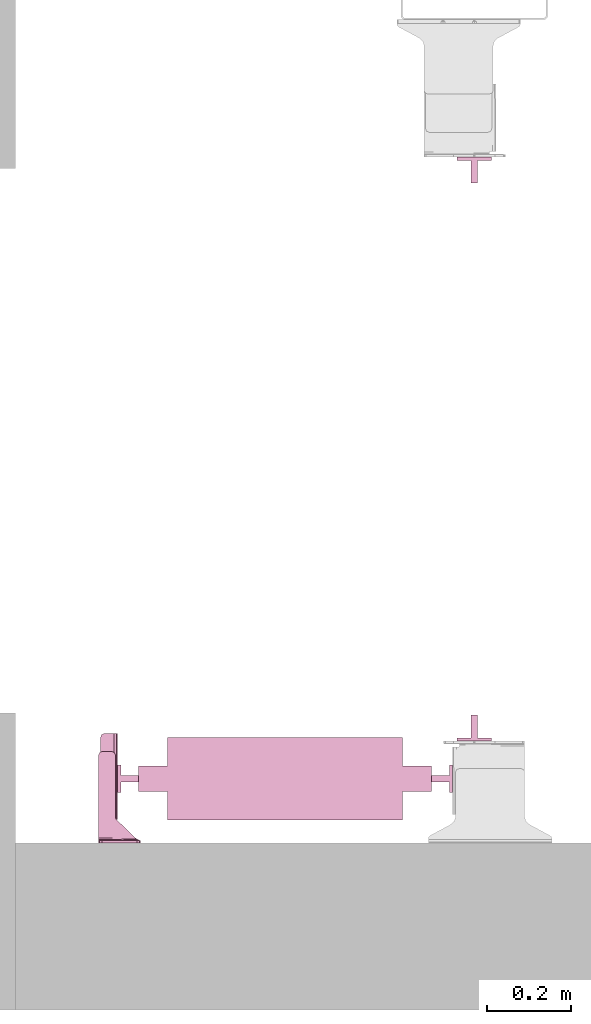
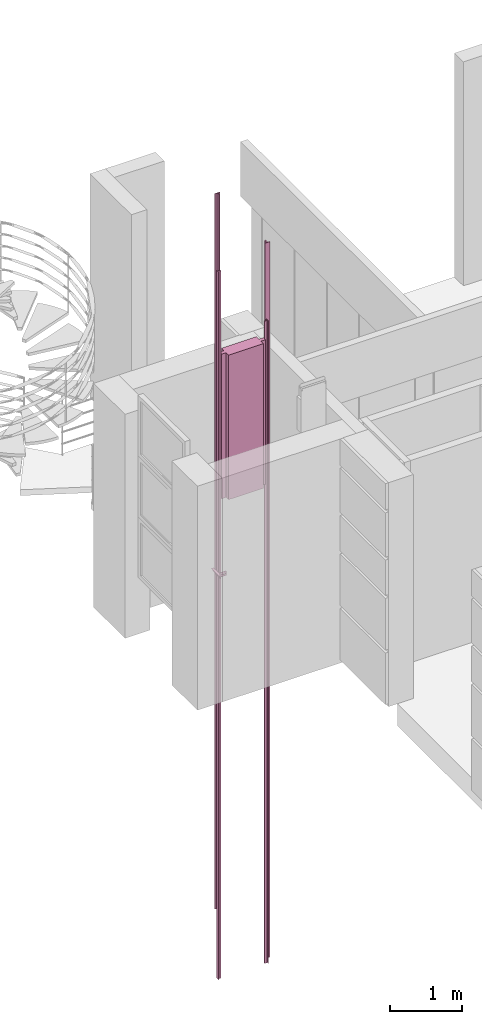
# One storey, part 10 of 14: 6 transport elements.
"""IFC2X3 building model written with IfcOpenShell, lengths in millimetres."""

import ifcopenshell
import ifcopenshell.guid

model = None  # the IFC model being written
_history = None  # IfcOwnerHistory: only IFC2X3 demands one
_inside = {}  # id of a spatial element -> (the spatial element, [elements in it])
_under = {}  # id of a project, library or spatial element -> (it, [spatial elements below it])
_declared = {}  # id of a project -> (the project, [libraries it declares])
_typed = {}  # id of a type object -> (the type object, [elements of that type])
_made_of = {}  # id of a material, layer set ... -> (it, [elements and type objects made of it])


def new_model(schema):
    """Start an empty IFC model of exactly this schema.

    Asked for "IFC4X3", IfcOpenShell would pick the latest addendum, in which some entities
    have other attributes; the version numbers below select the first issue.
    IFC2X3 requires an IfcOwnerHistory on every rooted entity: one is made here for all.
    """
    global model, _history
    if schema == "IFC4X3":
        model = ifcopenshell.file(schema_version=(4, 3, 0, 0))
    else:
        model = ifcopenshell.file(schema=schema)
    _inside.clear()
    _under.clear()
    _declared.clear()
    _typed.clear()
    _made_of.clear()
    _history = None
    if model.schema == "IFC2X3":
        org = make("IfcOrganization", Name="unknown")
        user = make(
            "IfcPersonAndOrganization",
            ThePerson=make("IfcPerson", FamilyName="unknown"),
            TheOrganization=org,
        )
        app = make(
            "IfcApplication",
            ApplicationDeveloper=org,
            Version="unknown",
            ApplicationFullName="unknown",
            ApplicationIdentifier="unknown",
        )
        _history = make(
            "IfcOwnerHistory",
            OwningUser=user,
            OwningApplication=app,
            ChangeAction="ADDED",
            CreationDate=0,
        )
    return model


def make(cls, **values):
    """One entity of the class cls with the attributes given. An attribute that is None is left unset."""
    return model.create_entity(
        cls, **{name: value for name, value in values.items() if value is not None}
    )


def entity(cls, *values):
    """Any entity or typed value of the class cls, its attributes in the order of the schema. None: left unset."""
    e = model.create_entity(cls)
    for i, value in enumerate(values):
        if value is not None:
            e[i] = value
    return e


def rooted(cls, **values):
    """An entity with a GlobalId (a new one), such as an element, a storey or a relation."""
    return make(cls, GlobalId=ifcopenshell.guid.new(), OwnerHistory=_history, **values)


def si_unit(unit_type, name, prefix=None):
    """IfcSIUnit, for example si_unit("LENGTHUNIT", "METRE", prefix="MILLI")."""
    return make("IfcSIUnit", UnitType=unit_type, Prefix=prefix, Name=name)


def converted_unit(unit_type, name, factor, base, dimensions=None, offset=None):
    """IfcConversionBasedUnit, such as the inch: factor (a typed value) times the base unit."""
    return make(
        "IfcConversionBasedUnit"
        if offset is None
        else "IfcConversionBasedUnitWithOffset",
        ConversionOffset=offset,
        Dimensions=None
        if dimensions is None
        else entity("IfcDimensionalExponents", *dimensions),
        UnitType=unit_type,
        Name=name,
        ConversionFactor=make(
            "IfcMeasureWithUnit", ValueComponent=factor, UnitComponent=base
        ),
    )


def derived_unit(unit_type, elements):
    """IfcDerivedUnit: a product of units, each with its exponent."""
    return make(
        "IfcDerivedUnit",
        Elements=[
            make("IfcDerivedUnitElement", Unit=unit, Exponent=power)
            for unit, power in elements
        ],
        UnitType=unit_type,
    )


def assignment(units):
    """IfcUnitAssignment: the units of a project."""
    return None if units is None else make("IfcUnitAssignment", Units=units)


def point(xyz):
    """IfcCartesianPoint."""
    return None if xyz is None else make("IfcCartesianPoint", Coordinates=xyz)


def direction(xyz):
    """IfcDirection."""
    return None if xyz is None else make("IfcDirection", DirectionRatios=xyz)


def frame(location, z_axis=None, x_axis=None):
    """IfcAxis2Placement3D, a coordinate frame: its origin and axes. An axis left out is left unset."""
    return make(
        "IfcAxis2Placement3D",
        Location=point(location),
        Axis=direction(z_axis),
        RefDirection=direction(x_axis),
    )


def origin():
    """The frame at (0, 0, 0) with its axes left unset."""
    return frame((0.0, 0.0, 0.0))


def place(relative_to, where):
    """IfcLocalPlacement: puts the frame where relative to a parent placement (None: the world)."""
    return make(
        "IfcLocalPlacement", PlacementRelTo=relative_to, RelativePlacement=where
    )


def context(
    kind, dimensions, precision=None, world=None, true_north=None, identifier=None
):
    """IfcGeometricRepresentationContext, for example the 3D "Model" context."""
    return make(
        "IfcGeometricRepresentationContext",
        ContextIdentifier=identifier,
        ContextType=kind,
        CoordinateSpaceDimension=dimensions,
        Precision=precision,
        WorldCoordinateSystem=world,
        TrueNorth=true_north,
    )


def subcontext(parent, identifier, kind, view, scale=None):
    """IfcGeometricRepresentationSubContext, for example "Body" below "Model"."""
    return make(
        "IfcGeometricRepresentationSubContext",
        ContextIdentifier=identifier,
        ContextType=kind,
        ParentContext=parent,
        TargetScale=scale,
        TargetView=view,
    )


def project(units=None, contexts=None):
    """IfcProject with its units and contexts."""
    return rooted(
        "IfcProject",
        Name="project",
        RepresentationContexts=contexts,
        UnitsInContext=assignment(units),
    )


def spatial(cls, under=None, at=None, **own):
    """A site, building, storey or space (cls), placed at a placement, below another one or the project."""
    s = rooted(cls, ObjectPlacement=at, **own)
    if under is not None:
        _under.setdefault(under.id(), (under, []))[1].append(s)
    return s


def polyline(points):
    """IfcPolyline through the points."""
    return make("IfcPolyline", Points=[point(p) for p in points])


def outline(outer, holes=None, kind="AREA"):
    """IfcArbitraryClosedProfileDef: a profile drawn as a closed curve; with holes, ...WithVoids."""
    if holes is None:
        return make("IfcArbitraryClosedProfileDef", ProfileType=kind, OuterCurve=outer)
    return make(
        "IfcArbitraryProfileDefWithVoids",
        ProfileType=kind,
        OuterCurve=outer,
        InnerCurves=holes,
    )


def extrude(swept, where, along, depth):
    """IfcExtrudedAreaSolid: the profile swept, set in the frame where, extruded along a direction by depth."""
    return make(
        "IfcExtrudedAreaSolid",
        SweptArea=swept,
        Position=where,
        ExtrudedDirection=direction(along),
        Depth=depth,
    )


def faces_of(points, faces, orient=None, outer=None):
    """IfcFace entities. A face is a list of loops; a loop is a list of indices into points, from 0.

    orient and outer hold one flag for each loop. By default every Orientation is true, the
    first loop of a face is its IfcFaceOuterBound and the others are IfcFaceBound.
    """
    made = []
    for i, loops in enumerate(faces):
        bounds = []
        for j, loop in enumerate(loops):
            is_outer = j == 0 if outer is None else outer[i][j]
            bounds.append(
                make(
                    "IfcFaceOuterBound" if is_outer else "IfcFaceBound",
                    Bound=make("IfcPolyLoop", Polygon=[points[k] for k in loop]),
                    Orientation=True if orient is None else orient[i][j],
                )
            )
        made.append(make("IfcFace", Bounds=bounds))
    return made


def faceted_brep(points, faces, orient=None, outer=None, voids=None):
    """IfcFacetedBrep: a solid bounded by flat faces; with voids (closed shells), ...WithVoids."""
    shared = [point(p) for p in points]
    hull = make("IfcClosedShell", CfsFaces=faces_of(shared, faces, orient, outer))
    if voids is None:
        return make("IfcFacetedBrep", Outer=hull)
    return make(
        "IfcFacetedBrepWithVoids",
        Outer=hull,
        Voids=[
            make(cls, CfsFaces=faces_of(shared, fs, o, b)) for cls, fs, o, b in voids
        ],
    )


def shape(context_of_items, identifier, shape_type, items):
    """IfcShapeRepresentation: the items that make up one representation, for example the "Body"."""
    return make(
        "IfcShapeRepresentation",
        ContextOfItems=context_of_items,
        RepresentationIdentifier=identifier,
        RepresentationType=shape_type,
        Items=items,
    )


def source(mapping_origin, context_of_items, identifier, shape_type, items):
    """IfcRepresentationMap: a shape defined once, which mapped items show again and again."""
    return make(
        "IfcRepresentationMap",
        MappingOrigin=mapping_origin,
        MappedRepresentation=shape(context_of_items, identifier, shape_type, items),
    )


def transform(
    local_origin,
    x_axis=None,
    y_axis=None,
    z_axis=None,
    scale=None,
    scale2=None,
    scale3=None,
    uniform=True,
):
    """IfcCartesianTransformationOperator3D, or its non-uniform kind. x_axis, y_axis, z_axis: its Axis1, 2, 3."""
    if uniform:
        return make(
            "IfcCartesianTransformationOperator3D",
            Axis1=direction(x_axis),
            Axis2=direction(y_axis),
            LocalOrigin=point(local_origin),
            Scale=scale,
            Axis3=direction(z_axis),
        )
    return make(
        "IfcCartesianTransformationOperator3DnonUniform",
        Axis1=direction(x_axis),
        Axis2=direction(y_axis),
        LocalOrigin=point(local_origin),
        Scale=scale,
        Axis3=direction(z_axis),
        Scale2=scale2,
        Scale3=scale3,
    )


def mapped(mapping_source, mapping_target):
    """IfcMappedItem: shows the shape of a source again, moved by a transform."""
    return make(
        "IfcMappedItem", MappingSource=mapping_source, MappingTarget=mapping_target
    )


def made_of(thing, what):
    """Note that an element or type object is made of a material, layer set ...; save() writes the relation."""
    if what is not None:
        _made_of.setdefault(what.id(), (what, []))[1].append(thing)
    return thing


def type_object(cls, material=None, **own):
    """A type object (cls), such as IfcWallType, which elements share."""
    return made_of(rooted(cls, **own), material)


def type_shapes(of_type, sources):
    """Give a type object the sources (RepresentationMaps) that its elements show as mapped items."""
    of_type.RepresentationMaps = sources


def element(
    cls,
    number,
    at=None,
    inside=None,
    cuts=None,
    type_object=None,
    material=None,
    context=None,
    identifier="Body",
    shape_type=None,
    held_by="IfcProductDefinitionShape",
    body=None,
    shapes=None,
    **own,
):
    """One element of the class cls, such as IfcWall. Its Tag is "e" and its number.

    at: its placement. inside: the storey or other place that contains it. cuts: it is an
    opening in that element (IfcRelVoidsElement). A single representation is given by context,
    identifier, shape_type and body (its items); several are given by shapes. held_by: the class
    of the entity that holds the representations. save() writes the other relations.
    """
    e = rooted(cls, Tag="e%d" % number, ObjectPlacement=at, **own)
    if body is not None:
        shapes = [shape(context, identifier, shape_type, body)]
    if shapes is not None:
        e.Representation = make(held_by, Representations=shapes)
    if inside is not None:
        _inside.setdefault(inside.id(), (inside, []))[1].append(e)
    if cuts is not None:
        rooted(
            "IfcRelVoidsElement", RelatingBuildingElement=cuts, RelatedOpeningElement=e
        )
    if type_object is not None:
        _typed.setdefault(type_object.id(), (type_object, []))[1].append(e)
    return made_of(e, material)


def aggregate(whole, parts):
    """IfcRelAggregates: a whole, such as a stair, and the parts it consists of."""
    return rooted("IfcRelAggregates", RelatingObject=whole, RelatedObjects=parts)


def save(model, path):
    """Write the relations noted so far, then the file.

    IfcRelAggregates (storeys below a building ...), IfcRelContainedInSpatialStructure (elements
    in a storey), IfcRelDefinesByType, IfcRelAssociatesMaterial and IfcRelDeclares: one each for
    every whole, place, type object, material and project.
    """
    for whole, parts in _under.values():
        aggregate(whole, parts)
    for where, things in _inside.values():
        rooted(
            "IfcRelContainedInSpatialStructure",
            RelatedElements=things,
            RelatingStructure=where,
        )
    for kind, things in _typed.values():
        rooted("IfcRelDefinesByType", RelatedObjects=things, RelatingType=kind)
    for what, things in _made_of.values():
        rooted("IfcRelAssociatesMaterial", RelatedObjects=things, RelatingMaterial=what)
    for by, libraries in _declared.values():
        rooted("IfcRelDeclares", RelatingContext=by, RelatedDefinitions=libraries)
    model.write(path)


model = new_model("IFC2X3")

# Units and contexts
model_context = context("Model", 3, precision=0.01, world=origin(), true_north=direction((6.12303176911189e-17, 1.0)))
body_context = subcontext(model_context, "Body", "Model", "MODEL_VIEW")
ifc_project = project(units=[si_unit("LENGTHUNIT", "METRE", prefix="MILLI"), si_unit("AREAUNIT", "SQUARE_METRE"), si_unit("VOLUMEUNIT", "CUBIC_METRE"), converted_unit("PLANEANGLEUNIT", "DEGREE", entity("IfcRatioMeasure", 0.0174532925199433), si_unit("PLANEANGLEUNIT", "RADIAN"), dimensions=[0, 0, 0, 0, 0, 0, 0]), si_unit("MASSUNIT", "GRAM", prefix="KILO"), derived_unit("MASSDENSITYUNIT", [(si_unit("MASSUNIT", "GRAM", prefix="KILO"), 1), (si_unit("LENGTHUNIT", "METRE"), -3)]), si_unit("TIMEUNIT", "SECOND"), si_unit("FREQUENCYUNIT", "HERTZ"), si_unit("THERMODYNAMICTEMPERATUREUNIT", "DEGREE_CELSIUS"), derived_unit("THERMALTRANSMITTANCEUNIT", [(si_unit("MASSUNIT", "GRAM", prefix="KILO"), 1), (si_unit("THERMODYNAMICTEMPERATUREUNIT", "KELVIN"), -1), (si_unit("TIMEUNIT", "SECOND"), -3)]), derived_unit("VOLUMETRICFLOWRATEUNIT", [(si_unit("LENGTHUNIT", "METRE"), 3), (si_unit("TIMEUNIT", "SECOND"), -1)]), si_unit("ELECTRICCURRENTUNIT", "AMPERE"), si_unit("ELECTRICVOLTAGEUNIT", "VOLT"), si_unit("POWERUNIT", "WATT"), si_unit("FORCEUNIT", "NEWTON", prefix="KILO"), si_unit("ILLUMINANCEUNIT", "LUX"), si_unit("LUMINOUSFLUXUNIT", "LUMEN"), si_unit("LUMINOUSINTENSITYUNIT", "CANDELA"), derived_unit("USERDEFINED", [(si_unit("MASSUNIT", "GRAM", prefix="KILO"), -1), (si_unit("LENGTHUNIT", "METRE"), -2), (si_unit("TIMEUNIT", "SECOND"), 3), (si_unit("LUMINOUSFLUXUNIT", "LUMEN"), 1)]), derived_unit("LINEARVELOCITYUNIT", [(si_unit("LENGTHUNIT", "METRE"), 1), (si_unit("TIMEUNIT", "SECOND"), -1)]), si_unit("PRESSUREUNIT", "PASCAL"), derived_unit("USERDEFINED", [(si_unit("LENGTHUNIT", "METRE"), -2), (si_unit("MASSUNIT", "GRAM", prefix="KILO"), 1), (si_unit("TIMEUNIT", "SECOND"), -2)])], contexts=[model_context])

# Site, building, storey, space
site_placement = place(None, frame((-151.875543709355, 2715.0, 0.0)))
site = spatial("IfcSite", under=ifc_project, at=site_placement, Name="Surface", CompositionType="ELEMENT")
building_placement = place(site_placement, origin())
building = spatial("IfcBuilding", under=site, at=building_placement, CompositionType="ELEMENT")
storey_placement = place(building_placement, frame((0.0, 0.0, 3875.0)))
storey = spatial("IfcBuildingStorey", under=building, at=storey_placement, Name="uus 2 korrus", CompositionType="ELEMENT", Elevation=3875.00000000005)
space_placement = place(storey_placement, origin())
space = spatial("IfcSpace", under=storey, at=space_placement, Name="226a", CompositionType="ELEMENT", InteriorOrExteriorSpace="INTERNAL")

# Transport elements
transport_element_type_1 = type_object("IfcTransportElementType", Name="KONE_Car_guiderail")
shared_shape_1 = source(origin(), body_context, "Body", "SweptSolid", [
    extrude(outline(polyline([(-7.93999999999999, -42.5500000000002), (7.94000000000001, -42.5500000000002), (7.94000000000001, 11.5500000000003), (41.3333333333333, 11.5500000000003), (41.3333333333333, 19.4500000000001), (-41.3333333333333, 19.4500000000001), (-41.3333333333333, 11.5499999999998), (-7.93999999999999, 11.5499999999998), (-7.93999999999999, -42.5500000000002)])), frame((0.0, -19.4500000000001, 0.0)), (0.0, 0.0, 1.0), 12125.0),
])
type_shapes(transport_element_type_1, [shared_shape_1])
transport_element_1_placement = place(space_placement, frame((30756.6177671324, 21297.0, -5110.0)))
element("IfcTransportElement", 1, at=transport_element_1_placement, inside=space, type_object=transport_element_type_1, Name="KONE_Car_guiderail:KONE_Car_guiderail", ObjectType="KONE_Car_guiderail", CapacityByNumber=0.0, CapacityByWeight=0.0, OperationType="ELEVATOR", context=body_context, shape_type="MappedRepresentation", body=[
    mapped(shared_shape_1, transform((0.0, 0.0, 0.0), scale=1.0)),
])
transport_element_2_placement = place(space_placement, frame((30756.6177671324, 19903.0, -5110.0), z_axis=(0.0, 0.0, 1.0), x_axis=(-1.0, 0.0, 0.0)))
element("IfcTransportElement", 2, at=transport_element_2_placement, inside=space, type_object=transport_element_type_1, Name="KONE_Car_guiderail:KONE_Car_guiderail", ObjectType="KONE_Car_guiderail", CapacityByNumber=0.0, CapacityByWeight=0.0, OperationType="ELEVATOR", context=body_context, shape_type="MappedRepresentation", body=[
    mapped(shared_shape_1, transform((0.0, 0.0, 0.0), scale=1.0)),
])
transport_element_type_2 = type_object("IfcTransportElementType", Name="KONE_CWT")
shared_shape_2 = source(origin(), body_context, "Body", "SweptSolid", [
    extrude(outline(polyline([(-30.0, -350.0), (30.0, -350.0), (30.0, -280.0), (98.5000000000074, -280.0), (98.5000000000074, 280.0), (30.0, 280.0), (30.0, 350.0), (-30.0, 350.0), (-30.0, 280.0), (-98.5000000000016, 280.0), (-98.5000000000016, -280.0), (-30.0, -280.0), (-30.0, -350.0)])), frame((0.0, 0.0, 8135.0), z_axis=(0.0, 0.0, 1.0), x_axis=(-1.0, 0.0, 0.0)), (0.0, 0.0, 1.0), 2450.0),
])
type_shapes(transport_element_type_2, [shared_shape_2])
transport_element_3_placement = place(space_placement, frame((30304.6177671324, 19813.0, -5110.0), z_axis=(0.0, 0.0, 1.0), x_axis=(0.0, 1.0, 0.0)))
element("IfcTransportElement", 3, at=transport_element_3_placement, inside=space, type_object=transport_element_type_2, Name="KONE_CWT:KONE_CWT", ObjectType="KONE_CWT", CapacityByNumber=0.0, CapacityByWeight=0.0, OperationType="ELEVATOR", context=body_context, shape_type="MappedRepresentation", body=[
    mapped(shared_shape_2, transform((0.0, 0.0, 0.0), scale=1.0)),
])
transport_element_type_3 = type_object("IfcTransportElementType", Name="KONE_CWT_guiderail")
shared_shape_3 = source(origin(), body_context, "Body", "SweptSolid", [
    extrude(outline(polyline([(-33.5500000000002, 7.93999999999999), (-33.5500000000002, -7.94000000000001), (8.55000000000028, -7.94000000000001), (8.55000000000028, -33.3333333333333), (16.4500000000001, -33.3333333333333), (16.4500000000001, 33.3333333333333), (8.54999999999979, 33.3333333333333), (8.54999999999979, 7.93999999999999), (-33.5500000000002, 7.93999999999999)])), frame((0.0, 16.4500000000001, 0.0), z_axis=(0.0, 0.0, -1.0), x_axis=(0.0, -1.0, 0.0)), (0.0, 0.0, -1.0), 10885.0),
])
type_shapes(transport_element_type_3, [shared_shape_3])
transport_element_4_placement = place(space_placement, frame((30704.6177671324, 19813.0, -5110.0), z_axis=(0.0, 0.0, 1.0), x_axis=(0.0, 1.0, 0.0)))
element("IfcTransportElement", 4, at=transport_element_4_placement, inside=space, type_object=transport_element_type_3, Name="KONE_CWT_guiderail:KONE_CWT_guiderail", ObjectType="KONE_CWT_guiderail", CapacityByNumber=0.0, CapacityByWeight=0.0, OperationType="ELEVATOR", context=body_context, shape_type="MappedRepresentation", body=[
    mapped(shared_shape_3, transform((0.0, 0.0, 0.0), scale=1.0)),
])
transport_element_type_4 = type_object("IfcTransportElementType", Name="KONE_CWT_guiderail")
shared_shape_4 = source(origin(), body_context, "Body", "SweptSolid", [
    extrude(outline(polyline([(-33.5500000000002, 7.93999999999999), (-33.5500000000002, -7.94000000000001), (8.55000000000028, -7.94000000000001), (8.55000000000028, -33.3333333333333), (16.4500000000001, -33.3333333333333), (16.4500000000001, 33.3333333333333), (8.54999999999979, 33.3333333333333), (8.54999999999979, 7.93999999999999), (-33.5500000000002, 7.93999999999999)])), frame((0.0, 16.4500000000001, 0.0), z_axis=(0.0, 0.0, -1.0), x_axis=(0.0, -1.0, 0.0)), (0.0, 0.0, -1.0), 11989.0),
])
type_shapes(transport_element_type_4, [shared_shape_4])
transport_element_5_placement = place(space_placement, frame((29904.6177671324, 19813.0, -5110.0), z_axis=(0.0, 0.0, 1.0), x_axis=(0.0, -1.0, 0.0)))
element("IfcTransportElement", 5, at=transport_element_5_placement, inside=space, type_object=transport_element_type_4, Name="KONE_CWT_guiderail:KONE_CWT_guiderail", ObjectType="KONE_CWT_guiderail", CapacityByNumber=0.0, CapacityByWeight=0.0, OperationType="ELEVATOR", context=body_context, shape_type="MappedRepresentation", body=[
    mapped(shared_shape_4, transform((0.0, 0.0, 0.0), scale=1.0)),
])
transport_element_type_5 = type_object("IfcTransportElementType", Name="KONE_CWT_Bracket_KM51010607V000_L97-565_LH")
shared_shape_5 = source(origin(), body_context, "Body", "Brep", [
    faceted_brep([(6.59527223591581, 68.5952722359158, 9.59527223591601), (6.59527223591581, 68.5952722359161, 198.595272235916), (8.93841798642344, 68.5952722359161, 204.252126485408), (14.5952722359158, 68.5952722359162, 206.595272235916), (38.5952722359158, 68.5952722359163, 206.595272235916), (38.5952722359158, 68.595272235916, 1.59527223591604), (14.5952722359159, 68.5952722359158, 1.595272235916), (8.93841798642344, 68.5952722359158, 3.93841798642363), (46.5952722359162, 9.59527223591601, 1.59527223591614), (46.5952722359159, 60.595272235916, 1.59527223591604), (46.5952722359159, 60.5952722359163, 206.595272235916), (46.5952722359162, 9.59527223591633, 206.595272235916), (46.5952722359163, 3.93841798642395, 204.252126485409), (46.5952722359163, 1.59527223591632, 198.595272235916), (46.5952722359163, 1.59527223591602, 9.59527223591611), (46.5952722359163, 3.93841798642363, 3.93841798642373), (44.2521264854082, 66.2521264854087, 206.595272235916), (44.2521264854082, 66.2521264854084, 1.59527223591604), (14.5952722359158, 64.5952722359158, 1.59527223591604), (42.5952722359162, 9.59527223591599, 1.59527223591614), (42.5952722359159, 60.595272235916, 1.59527223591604), (41.423699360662, 63.4236993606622, 1.59527223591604), (38.5952722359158, 64.595272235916, 1.59527223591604), (14.5952722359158, 64.5952722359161, 206.595272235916), (38.5952722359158, 64.5952722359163, 206.595272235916), (41.423699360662, 63.4236993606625, 206.595272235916), (42.5952722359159, 60.5952722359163, 206.595272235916), (42.5952722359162, 9.59527223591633, 206.595272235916), (6.59527223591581, 64.5952722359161, 198.595272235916), (6.59527223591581, 64.5952722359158, 9.59527223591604), (8.93841798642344, 64.5952722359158, 3.93841798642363), (8.93841798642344, 64.5952722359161, 204.252126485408), (42.5952722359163, 1.595272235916, 9.59527223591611), (42.5952722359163, 1.59527223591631, 198.595272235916), (42.5952722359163, 3.93841798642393, 204.252126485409), (42.5952722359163, 3.93841798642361, 3.93841798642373)], [[[0, 1, 2, 3, 4, 5, 6, 7]], [[8, 9, 10, 11, 12, 13, 14, 15]], [[5, 4, 16, 17]], [[16, 10, 9, 17]], [[18, 6, 5, 17, 9, 8, 19, 20, 21, 22]], [[4, 3, 23, 24, 25, 26, 27, 11, 10, 16]], [[28, 1, 0, 29]], [[29, 30, 18, 22, 24, 23, 31, 28]], [[21, 25, 24, 22]], [[20, 26, 25, 21]], [[32, 14, 13, 33]], [[32, 33, 34, 27, 26, 20, 19, 35]], [[11, 27, 34, 12]], [[34, 33, 13, 12]], [[14, 32, 35, 15]], [[35, 19, 8, 15]], [[1, 28, 31, 2]], [[31, 23, 3, 2]], [[6, 18, 30, 7]], [[30, 29, 0, 7]]]),
    faceted_brep([(9.59527223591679, 68.5952722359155, 44.5952722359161), (33.5952722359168, 68.5952722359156, 44.5952722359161), (39.2521264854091, 68.5952722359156, 46.9384179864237), (41.5952722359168, 68.5952722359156, 52.5952722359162), (41.5952722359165, 68.5952722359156, 201.201861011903), (42.2304431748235, 68.5952722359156, 204.325847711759), (44.0350954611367, 68.5952722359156, 206.953768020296), (89.1814791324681, 68.5952722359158, 250.595272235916), (1.59527223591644, 68.5952722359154, 250.595272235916), (1.59527223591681, 68.5952722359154, 52.5952722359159), (3.93841798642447, 68.5952722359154, 46.9384179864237), (1.59527223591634, 80.5952722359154, 262.595272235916), (22.095272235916, 113.556110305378, 262.595272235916), (1.595272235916, 145.595272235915, 262.595272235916), (24.345272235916, 109.658995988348, 262.595272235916), (28.845272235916, 109.658995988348, 262.595272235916), (51.0952722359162, 106.595272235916, 262.595272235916), (101.024082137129, 80.5952722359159, 262.595272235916), (82.0952722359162, 106.595272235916, 262.595272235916), (101.595272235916, 83.5639054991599, 262.595272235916), (101.45117699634, 82.0523631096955, 262.595272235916), (88.1574500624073, 110.095272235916, 262.595272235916), (101.595272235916, 145.595272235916, 262.595272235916), (82.0952722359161, 120.595272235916, 262.595272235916), (93.5952722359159, 153.595272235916, 262.595272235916), (99.2521264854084, 151.252126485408, 262.595272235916), (51.0952722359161, 120.595272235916, 262.595272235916), (9.59527223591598, 153.595272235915, 262.595272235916), (3.93841798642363, 151.252126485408, 262.595272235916), (24.345272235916, 117.453224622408, 262.595272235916), (28.845272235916, 117.453224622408, 262.595272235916), (45.0330944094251, 117.095272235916, 262.595272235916), (31.095272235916, 113.556110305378, 262.595272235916), (1.59527223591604, 145.595272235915, 256.595272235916), (1.59527223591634, 80.5952722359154, 256.595272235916), (1.59527223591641, 76.3526315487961, 254.837912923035), (1.59527223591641, 74.5952722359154, 250.595272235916), (1.59527223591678, 74.5952722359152, 52.5952722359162), (1.59527223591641, 72.1099908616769, 259.080553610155), (93.595272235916, 153.595272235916, 256.595272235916), (9.59527223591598, 153.595272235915, 256.595272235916), (101.595272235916, 83.5639054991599, 256.595272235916), (101.595272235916, 145.595272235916, 256.595272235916), (101.024082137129, 80.5952722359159, 258.505131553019), (101.024082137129, 80.5952722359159, 256.595272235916), (101.45117699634, 82.0523631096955, 256.595272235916), (101.024082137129, 80.5952722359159, 260.550201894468), (22.095272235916, 113.556110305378, 256.595272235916), (24.345272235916, 117.453224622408, 256.595272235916), (3.93841798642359, 151.252126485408, 256.595272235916), (28.845272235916, 117.453224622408, 256.595272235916), (51.0952722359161, 120.595272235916, 256.595272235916), (82.0952722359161, 120.595272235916, 256.595272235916), (99.2521264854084, 151.252126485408, 256.595272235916), (88.1574500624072, 117.095272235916, 256.595272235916), (82.0952722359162, 106.595272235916, 256.595272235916), (51.0952722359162, 106.595272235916, 256.595272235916), (28.845272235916, 109.658995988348, 256.595272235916), (45.0330944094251, 110.095272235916, 256.595272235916), (31.095272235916, 113.556110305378, 256.595272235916), (24.345272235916, 109.658995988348, 256.595272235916), (90.8716474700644, 69.4620352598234, 252.858782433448), (92.5618158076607, 70.3287982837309, 255.12229263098), (95.1663075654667, 71.6644505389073, 258.610284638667), (97.465270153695, 74.4277936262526, 260.483120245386), (99.1554490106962, 76.4593813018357, 261.860013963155), (100.266113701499, 78.4119141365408, 262.394973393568), (100.712666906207, 79.6982283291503, 262.51297842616), (99.5844357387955, 77.2135339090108, 262.066638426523), (93.1709213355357, 75.2946816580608, 253.406631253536), (89.1814791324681, 74.5952722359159, 250.595272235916), (99.1554490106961, 78.5273267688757, 256.227643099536), (96.1631851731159, 76.9110042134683, 254.817137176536), (100.210249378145, 79.4435397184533, 256.483694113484), (91.9979663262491, 73.1956418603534, 253.24829144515), (95.9182311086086, 75.042966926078, 256.584606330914), (93.8250527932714, 72.2078564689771, 255.941846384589), (96.5595031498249, 74.2861590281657, 258.572840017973), (99.1554490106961, 77.1486964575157, 259.982557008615), (89.1814791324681, 72.6854129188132, 250.595272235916), (89.1814791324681, 73.6403425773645, 250.595272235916), (99.1554490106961, 77.8380116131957, 258.105100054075), (91.5229558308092, 70.8366156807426, 253.466684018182), (89.1814791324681, 70.6403425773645, 250.595272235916), (99.8105848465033, 78.1658035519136, 259.676951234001), (100.153361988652, 79.0035157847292, 258.299767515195), (100.441096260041, 79.1968158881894, 259.981181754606), (44.0350954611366, 74.5952722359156, 206.953768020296), (41.5952722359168, 74.5952722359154, 52.5952722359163), (41.5952722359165, 74.5952722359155, 201.201861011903), (33.5952722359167, 74.5952722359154, 44.5952722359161), (9.59527223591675, 74.5952722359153, 44.5952722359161), (42.2304431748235, 74.5952722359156, 204.325847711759), (39.2521264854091, 74.5952722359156, 46.9384179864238), (3.9384179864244, 74.5952722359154, 46.9384179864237)], [[[0, 1, 2, 3, 4, 5, 6, 7, 8, 9, 10]], [[11, 12, 13]], [[12, 11, 14]], [[15, 14, 11]], [[15, 11, 16]], [[16, 11, 17]], [[18, 16, 17]], [[17, 19, 18]], [[17, 20, 19]], [[18, 19, 21]], [[21, 19, 22]], [[23, 21, 22]], [[22, 24, 23]], [[24, 22, 25]], [[26, 23, 24]], [[26, 24, 27]], [[13, 27, 28]], [[27, 13, 29]], [[27, 30, 26]], [[29, 30, 27]], [[26, 30, 31]], [[30, 32, 31]], [[31, 32, 16]], [[32, 15, 16]], [[13, 12, 29]], [[13, 33, 34, 35, 36, 37, 9, 8, 38, 11]], [[39, 40, 27, 24]], [[19, 41, 42, 22]], [[43, 44, 45, 20, 17, 46]], [[45, 41, 19, 20]], [[33, 47, 34]], [[48, 47, 33]], [[48, 33, 40]], [[49, 40, 33]], [[40, 50, 48]], [[51, 50, 40]], [[40, 39, 51]], [[39, 52, 51]], [[52, 39, 42]], [[53, 42, 39]], [[42, 54, 52]], [[42, 41, 54]], [[54, 41, 55]], [[55, 41, 44]], [[41, 45, 44]], [[44, 56, 55]], [[44, 34, 56]], [[56, 34, 57]], [[57, 58, 56]], [[51, 59, 50]], [[58, 59, 51]], [[58, 57, 59]], [[60, 34, 47]], [[34, 60, 57]], [[54, 23, 52]], [[21, 23, 54]], [[55, 18, 21]], [[54, 55, 21]], [[26, 51, 52, 23]], [[58, 16, 56]], [[31, 16, 58]], [[51, 26, 31]], [[58, 51, 31]], [[18, 55, 56, 16]], [[38, 7, 61, 62, 63]], [[38, 8, 7]], [[38, 63, 64, 65]], [[11, 66, 67, 17]], [[65, 11, 38]], [[11, 65, 68, 66]], [[36, 69, 70]], [[69, 36, 35]], [[35, 71, 72, 69]], [[34, 44, 73]], [[35, 34, 71]], [[73, 71, 34]], [[70, 69, 74]], [[75, 69, 72, 71]], [[76, 77, 63]], [[64, 77, 78]], [[74, 79, 80, 70]], [[78, 65, 64]], [[75, 74, 69]], [[77, 81, 78]], [[64, 63, 77]], [[76, 62, 82]], [[82, 79, 74]], [[82, 61, 83]], [[61, 82, 62]], [[74, 75, 76]], [[76, 63, 62]], [[76, 75, 77]], [[75, 81, 77]], [[74, 76, 82]], [[61, 7, 83]], [[82, 83, 79]], [[75, 71, 81]], [[84, 78, 81]], [[84, 66, 68]], [[68, 78, 84]], [[73, 85, 71]], [[86, 84, 85]], [[46, 17, 67]], [[46, 86, 43]], [[81, 71, 85]], [[67, 66, 86]], [[46, 67, 86]], [[43, 86, 85]], [[84, 86, 66]], [[81, 85, 84]], [[85, 44, 43]], [[85, 73, 44]], [[68, 65, 78]], [[80, 79, 83, 7, 6, 87, 70]], [[4, 3, 88, 89]], [[90, 1, 0, 91]], [[37, 36, 70, 87, 92, 89, 88, 93, 90, 91, 94]], [[1, 90, 93, 2]], [[93, 88, 3, 2]], [[9, 37, 94, 10]], [[94, 91, 0, 10]], [[27, 40, 49, 28]], [[49, 33, 13, 28]], [[22, 42, 53, 25]], [[53, 39, 24, 25]], [[92, 5, 4, 89]], [[87, 6, 5, 92]], [[14, 60, 47, 12]], [[14, 15, 57, 60]], [[32, 59, 57, 15]], [[30, 50, 59, 32]], [[30, 29, 48, 50]], [[12, 47, 48, 29]]]),
])
type_shapes(transport_element_type_5, [shared_shape_5])
transport_element_6_placement = place(space_placement, frame((29858.0224948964, 19922.5952724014, 1726.4049501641), z_axis=(0.0, -1.0, 0.0), x_axis=(1.0, 0.0, 0.0)))
element("IfcTransportElement", 6, at=transport_element_6_placement, inside=space, type_object=transport_element_type_5, Name="KONE_CWT_Bracket_KM51010607V000_L97-565_LH:KONE_CWT_Bracket_KM51010607V000_L97-565_LH", ObjectType="KONE_CWT_Bracket_KM51010607V000_L97-565_LH", CapacityByNumber=0.0, CapacityByWeight=0.0, OperationType="ELEVATOR", context=body_context, shape_type="MappedRepresentation", body=[
    mapped(shared_shape_5, transform((0.0, 0.0, 0.0), scale=1.0)),
])

save(model, "model.ifc")
